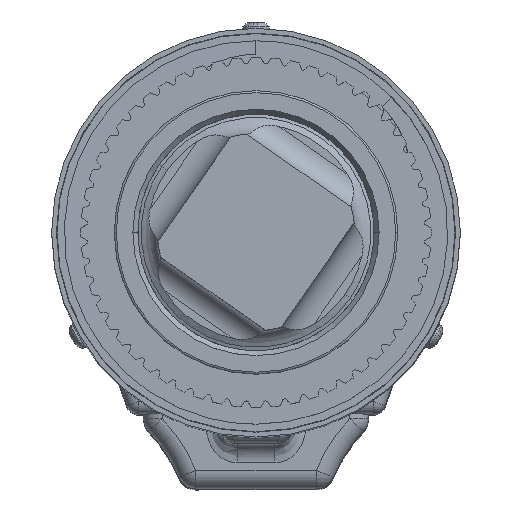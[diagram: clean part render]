
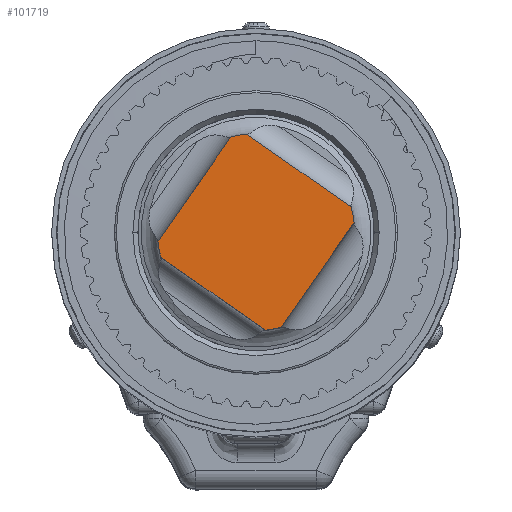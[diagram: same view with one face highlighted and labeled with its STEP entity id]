
A CAD part, top view. The second image highlights one B-rep face of the part: STEP entity #101719.
In plain terms, the highlighted planar face has unit normal (0, 0, 1).
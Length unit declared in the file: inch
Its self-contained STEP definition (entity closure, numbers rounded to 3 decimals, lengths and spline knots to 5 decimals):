
#1531 = VERTEX_POINT ( 'NONE', #96948 ) ;
#3944 = LINE ( 'NONE', #104276, #111110 ) ;
#4635 = DIRECTION ( 'NONE',  ( -0.82, 0.573, 0. ) ) ;
#5193 = ORIENTED_EDGE ( 'NONE', *, *, #104540, .F. ) ;
#5395 = LINE ( 'NONE', #80541, #33881 ) ;
#5592 = DIRECTION ( 'NONE',  ( -0.82, 0.573, 0. ) ) ;
#8607 = EDGE_CURVE ( 'NONE', #114209, #40072, #31468, .T. ) ;
#11478 = VERTEX_POINT ( 'NONE', #29751 ) ;
#11903 = CARTESIAN_POINT ( 'NONE',  ( 1.35949, 0.63585, 4.1857 ) ) ;
#13618 = VERTEX_POINT ( 'NONE', #120471 ) ;
#15409 = CARTESIAN_POINT ( 'NONE',  ( 0.24957, -0.95209, 4.1857 ) ) ;
#18073 = ORIENTED_EDGE ( 'NONE', *, *, #33543, .T. ) ;
#19313 = ORIENTED_EDGE ( 'NONE', *, *, #71528, .F. ) ;
#20274 = EDGE_CURVE ( 'NONE', #48192, #13618, #3944, .T. ) ;
#23147 = CARTESIAN_POINT ( 'NONE',  ( -0.24957, 0.95209, 4.1857 ) ) ;
#23740 = EDGE_CURVE ( 'NONE', #115438, #13618, #109492, .T. ) ;
#23981 = LINE ( 'NONE', #11903, #77629 ) ;
#26254 = DIRECTION ( 'NONE',  ( 0., 0., 1. ) ) ;
#29751 = CARTESIAN_POINT ( 'NONE',  ( -0.95209, -0.24957, 4.1857 ) ) ;
#31468 = CIRCLE ( 'NONE', #89472, 0.98425 ) ;
#31828 = ORIENTED_EDGE ( 'NONE', *, *, #20274, .F. ) ;
#33543 = EDGE_CURVE ( 'NONE', #48192, #104594, #101539, .T. ) ;
#33881 = VECTOR ( 'NONE', #5592, 39.37008 ) ;
#39455 = CIRCLE ( 'NONE', #126084, 0.98425 ) ;
#40072 = VERTEX_POINT ( 'NONE', #15409 ) ;
#42759 = CARTESIAN_POINT ( 'NONE',  ( 0., 0., 4.1857 ) ) ;
#43054 = DIRECTION ( 'NONE',  ( 0., 0., 1. ) ) ;
#43219 = DIRECTION ( 'NONE',  ( -0.82, 0.573, 0. ) ) ;
#48192 = VERTEX_POINT ( 'NONE', #63662 ) ;
#52163 = ORIENTED_EDGE ( 'NONE', *, *, #23740, .T. ) ;
#53574 = EDGE_CURVE ( 'NONE', #1531, #11478, #39455, .T. ) ;
#58573 = AXIS2_PLACEMENT_3D ( 'NONE', #132882, #68792, #4635 ) ;
#58993 = AXIS2_PLACEMENT_3D ( 'NONE', #90420, #26254, #101178 ) ;
#59424 = PLANE ( 'NONE',  #103576 ) ;
#59895 = DIRECTION ( 'NONE',  ( 0., 0., -1. ) ) ;
#63021 = DIRECTION ( 'NONE',  ( 0., 0., 1. ) ) ;
#63662 = CARTESIAN_POINT ( 'NONE',  ( -0.09274, 0.97987, 4.1857 ) ) ;
#64927 = DIRECTION ( 'NONE',  ( 0.573, 0.82, 0. ) ) ;
#68792 = DIRECTION ( 'NONE',  ( 0., 0., 1. ) ) ;
#71356 = ORIENTED_EDGE ( 'NONE', *, *, #77622, .F. ) ;
#71528 = EDGE_CURVE ( 'NONE', #1531, #104594, #77658, .T. ) ;
#71806 = CARTESIAN_POINT ( 'NONE',  ( 0.09274, -0.97987, 4.1857 ) ) ;
#72500 = DIRECTION ( 'NONE',  ( 0.82, -0.573, 0. ) ) ;
#77622 = EDGE_CURVE ( 'NONE', #114209, #11478, #5395, .T. ) ;
#77629 = VECTOR ( 'NONE', #108294, 39.37008 ) ;
#77658 = LINE ( 'NONE', #85103, #102793 ) ;
#80311 = EDGE_LOOP ( 'NONE', ( #107324, #5193, #52163, #31828, #18073, #19313, #93293, #71356 ) ) ;
#80541 = CARTESIAN_POINT ( 'NONE',  ( 0.63585, -1.35949, 4.1857 ) ) ;
#85103 = CARTESIAN_POINT ( 'NONE',  ( -1.35949, -0.63585, 4.1857 ) ) ;
#89472 = AXIS2_PLACEMENT_3D ( 'NONE', #42759, #43054, #43219 ) ;
#90420 = CARTESIAN_POINT ( 'NONE',  ( 0., 0., 4.1857 ) ) ;
#91862 = CARTESIAN_POINT ( 'NONE',  ( 0.97987, 0.09274, 4.1857 ) ) ;
#93293 = ORIENTED_EDGE ( 'NONE', *, *, #53574, .T. ) ;
#96948 = CARTESIAN_POINT ( 'NONE',  ( -0.97987, -0.09274, 4.1857 ) ) ;
#101178 = DIRECTION ( 'NONE',  ( -0.82, 0.573, 0. ) ) ;
#101539 = CIRCLE ( 'NONE', #58993, 0.98425 ) ;
#101719 = ADVANCED_FACE ( 'NONE', ( #105392 ), #59424, .F. ) ;
#102793 = VECTOR ( 'NONE', #64927, 39.37008 ) ;
#103576 = AXIS2_PLACEMENT_3D ( 'NONE', #123910, #59895, #134695 ) ;
#104276 = CARTESIAN_POINT ( 'NONE',  ( -0.63585, 1.35949, 4.1857 ) ) ;
#104540 = EDGE_CURVE ( 'NONE', #115438, #40072, #23981, .T. ) ;
#104594 = VERTEX_POINT ( 'NONE', #23147 ) ;
#105392 = FACE_OUTER_BOUND ( 'NONE', #80311, .T. ) ;
#107324 = ORIENTED_EDGE ( 'NONE', *, *, #8607, .T. ) ;
#108294 = DIRECTION ( 'NONE',  ( -0.573, -0.82, 0. ) ) ;
#109492 = CIRCLE ( 'NONE', #58573, 0.98425 ) ;
#111110 = VECTOR ( 'NONE', #72500, 39.37008 ) ;
#114209 = VERTEX_POINT ( 'NONE', #71806 ) ;
#115438 = VERTEX_POINT ( 'NONE', #91862 ) ;
#120471 = CARTESIAN_POINT ( 'NONE',  ( 0.95209, 0.24957, 4.1857 ) ) ;
#123910 = CARTESIAN_POINT ( 'NONE',  ( -0.56387, -0.80672, 4.1857 ) ) ;
#126084 = AXIS2_PLACEMENT_3D ( 'NONE', #127065, #63021, #137830 ) ;
#127065 = CARTESIAN_POINT ( 'NONE',  ( 0., 0., 4.1857 ) ) ;
#132882 = CARTESIAN_POINT ( 'NONE',  ( 0., 0., 4.1857 ) ) ;
#134695 = DIRECTION ( 'NONE',  ( 0.82, -0.573, 0. ) ) ;
#137830 = DIRECTION ( 'NONE',  ( -0.82, 0.573, 0. ) ) ;
